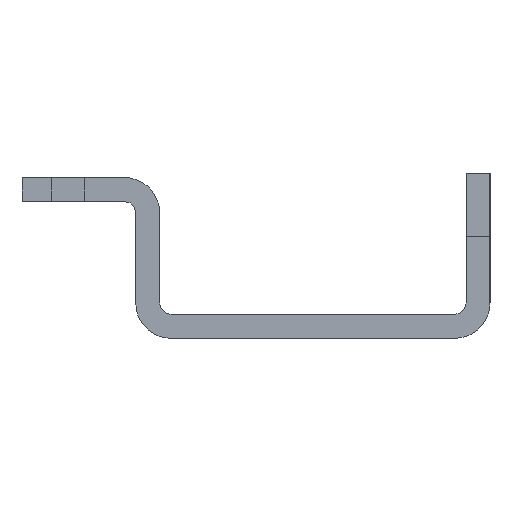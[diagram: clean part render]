
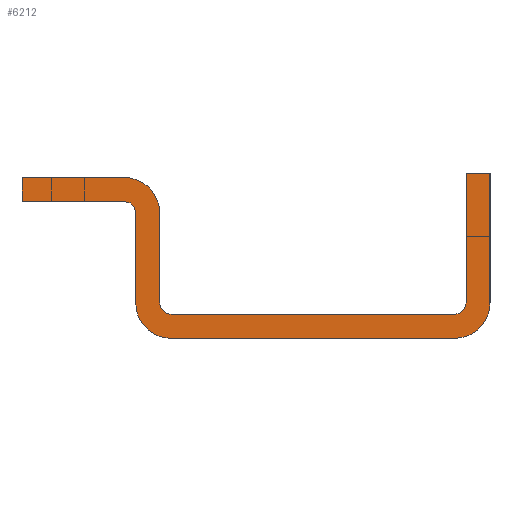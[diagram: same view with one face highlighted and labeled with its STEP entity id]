
A CAD part, left-side view. The second image highlights one B-rep face of the part: STEP entity #6212.
In plain terms, the highlighted planar face has unit normal (-1, 0, 0).
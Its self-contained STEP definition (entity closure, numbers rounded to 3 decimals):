
#24=PLANE('',#6843);
#334=CIRCLE('',#6844,4.699);
#335=CIRCLE('',#6845,1.524);
#336=CIRCLE('',#6846,4.699);
#337=CIRCLE('',#6847,4.699);
#338=CIRCLE('',#6848,1.524);
#339=CIRCLE('',#6849,1.524);
#962=ORIENTED_EDGE('',*,*,#2326,.T.);
#963=ORIENTED_EDGE('',*,*,#2327,.T.);
#964=ORIENTED_EDGE('',*,*,#2102,.F.);
#965=ORIENTED_EDGE('',*,*,#2328,.T.);
#966=ORIENTED_EDGE('',*,*,#2251,.T.);
#967=ORIENTED_EDGE('',*,*,#2329,.F.);
#968=ORIENTED_EDGE('',*,*,#2330,.F.);
#969=ORIENTED_EDGE('',*,*,#2331,.T.);
#970=ORIENTED_EDGE('',*,*,#2332,.T.);
#971=ORIENTED_EDGE('',*,*,#2333,.T.);
#972=ORIENTED_EDGE('',*,*,#2334,.F.);
#973=ORIENTED_EDGE('',*,*,#2335,.T.);
#974=ORIENTED_EDGE('',*,*,#2336,.T.);
#975=ORIENTED_EDGE('',*,*,#2337,.F.);
#976=ORIENTED_EDGE('',*,*,#2338,.F.);
#977=ORIENTED_EDGE('',*,*,#2339,.F.);
#2102=EDGE_CURVE('',#2782,#2783,#3358,.T.);
#2251=EDGE_CURVE('',#2932,#2930,#3363,.T.);
#2326=EDGE_CURVE('',#3006,#3007,#3366,.T.);
#2327=EDGE_CURVE('',#3007,#2783,#334,.T.);
#2328=EDGE_CURVE('',#2782,#2932,#3367,.T.);
#2329=EDGE_CURVE('',#3008,#2930,#335,.T.);
#2330=EDGE_CURVE('',#3009,#3008,#3368,.T.);
#2331=EDGE_CURVE('',#3009,#3010,#336,.T.);
#2332=EDGE_CURVE('',#3010,#3011,#3369,.T.);
#2333=EDGE_CURVE('',#3011,#3012,#337,.T.);
#2334=EDGE_CURVE('',#3013,#3012,#3370,.T.);
#2335=EDGE_CURVE('',#3013,#3014,#3371,.T.);
#2336=EDGE_CURVE('',#3014,#3015,#3372,.T.);
#2337=EDGE_CURVE('',#3016,#3015,#338,.T.);
#2338=EDGE_CURVE('',#3017,#3016,#3373,.T.);
#2339=EDGE_CURVE('',#3006,#3017,#339,.F.);
#2782=VERTEX_POINT('',#9596);
#2783=VERTEX_POINT('',#9597);
#2930=VERTEX_POINT('',#9893);
#2932=VERTEX_POINT('',#9896);
#3006=VERTEX_POINT('',#10046);
#3007=VERTEX_POINT('',#10047);
#3008=VERTEX_POINT('',#10051);
#3009=VERTEX_POINT('',#10053);
#3010=VERTEX_POINT('',#10055);
#3011=VERTEX_POINT('',#10057);
#3012=VERTEX_POINT('',#10059);
#3013=VERTEX_POINT('',#10061);
#3014=VERTEX_POINT('',#10063);
#3015=VERTEX_POINT('',#10065);
#3016=VERTEX_POINT('',#10067);
#3017=VERTEX_POINT('',#10069);
#3358=LINE('',#9595,#3434);
#3363=LINE('',#9895,#3439);
#3366=LINE('',#10045,#3442);
#3367=LINE('',#10049,#3443);
#3368=LINE('',#10052,#3444);
#3369=LINE('',#10056,#3445);
#3370=LINE('',#10060,#3446);
#3371=LINE('',#10062,#3447);
#3372=LINE('',#10064,#3448);
#3373=LINE('',#10068,#3449);
#3434=VECTOR('',#7651,1000.);
#3439=VECTOR('',#7946,1000.);
#3442=VECTOR('',#8095,1000.);
#3443=VECTOR('',#8098,1000.);
#3444=VECTOR('',#8101,1000.);
#3445=VECTOR('',#8104,1000.);
#3446=VECTOR('',#8107,1000.);
#3447=VECTOR('',#8108,1000.);
#3448=VECTOR('',#8109,1000.);
#3449=VECTOR('',#8112,1000.);
#3796=EDGE_LOOP('',(#962,#963,#964,#965,#966,#967,#968,#969,#970,#971,#972,
#973,#974,#975,#976,#977));
#4996=FACE_BOUND('',#3796,.T.);
#6212=ADVANCED_FACE('',(#4996),#24,.F.);
#6843=AXIS2_PLACEMENT_3D('',#10044,#8093,#8094);
#6844=AXIS2_PLACEMENT_3D('',#10048,#8096,#8097);
#6845=AXIS2_PLACEMENT_3D('',#10050,#8099,#8100);
#6846=AXIS2_PLACEMENT_3D('',#10054,#8102,#8103);
#6847=AXIS2_PLACEMENT_3D('',#10058,#8105,#8106);
#6848=AXIS2_PLACEMENT_3D('',#10066,#8110,#8111);
#6849=AXIS2_PLACEMENT_3D('',#10070,#8113,#8114);
#7651=DIRECTION('',(0.,-1.,0.));
#7946=DIRECTION('',(0.,-1.,0.));
#8093=DIRECTION('',(1.,0.,0.));
#8094=DIRECTION('',(0.,0.,-1.));
#8095=DIRECTION('',(0.,0.,1.));
#8096=DIRECTION('',(-1.,0.,0.));
#8097=DIRECTION('',(0.,1.,0.));
#8098=DIRECTION('',(0.,0.,-1.));
#8099=DIRECTION('',(-1.,0.,0.));
#8100=DIRECTION('',(0.,0.,1.));
#8101=DIRECTION('',(0.,0.,1.));
#8102=DIRECTION('',(-1.,0.,0.));
#8103=DIRECTION('',(0.,0.,1.));
#8104=DIRECTION('',(0.,-1.,0.));
#8105=DIRECTION('',(-1.,0.,0.));
#8106=DIRECTION('',(0.,0.,1.));
#8107=DIRECTION('',(0.,0.,-1.));
#8108=DIRECTION('',(0.,1.,0.));
#8109=DIRECTION('',(0.,0.,-1.));
#8110=DIRECTION('',(-1.,0.,0.));
#8111=DIRECTION('',(0.,-1.,0.));
#8112=DIRECTION('',(0.,-1.,0.));
#8113=DIRECTION('',(1.,0.,0.));
#8114=DIRECTION('',(0.,1.,0.));
#9595=CARTESIAN_POINT('',(-1066.8,23.164,21.361));
#9596=CARTESIAN_POINT('',(-1066.8,38.646,21.361));
#9597=CARTESIAN_POINT('',(-1066.8,25.057,21.361));
#9893=CARTESIAN_POINT('',(-1066.8,25.057,18.186));
#9895=CARTESIAN_POINT('',(-1066.8,23.164,18.186));
#9896=CARTESIAN_POINT('',(-1066.8,38.646,18.186));
#10044=CARTESIAN_POINT('',(-1066.8,23.533,3.175));
#10045=CARTESIAN_POINT('',(-1066.8,20.358,2.806));
#10046=CARTESIAN_POINT('',(-1066.8,20.358,4.699));
#10047=CARTESIAN_POINT('',(-1066.8,20.358,16.662));
#10048=CARTESIAN_POINT('',(-1066.8,25.057,16.662));
#10049=CARTESIAN_POINT('',(-1066.8,38.646,21.361));
#10050=CARTESIAN_POINT('',(-1066.8,25.057,16.662));
#10051=CARTESIAN_POINT('',(-1066.8,23.533,16.662));
#10052=CARTESIAN_POINT('',(-1066.8,23.533,2.806));
#10053=CARTESIAN_POINT('',(-1066.8,23.533,4.699));
#10054=CARTESIAN_POINT('',(-1066.8,18.834,4.699));
#10055=CARTESIAN_POINT('',(-1066.8,18.834,0.));
#10056=CARTESIAN_POINT('',(-1066.8,23.533,0.));
#10057=CARTESIAN_POINT('',(-1066.8,-18.834,0.));
#10058=CARTESIAN_POINT('',(-1066.8,-18.834,4.699));
#10059=CARTESIAN_POINT('',(-1066.8,-23.533,4.699));
#10060=CARTESIAN_POINT('',(-1066.8,-23.533,2.806));
#10061=CARTESIAN_POINT('',(-1066.8,-23.533,21.869));
#10062=CARTESIAN_POINT('',(-1066.8,-23.533,21.869));
#10063=CARTESIAN_POINT('',(-1066.8,-20.358,21.869));
#10064=CARTESIAN_POINT('',(-1066.8,-20.358,2.806));
#10065=CARTESIAN_POINT('',(-1066.8,-20.358,4.699));
#10066=CARTESIAN_POINT('',(-1066.8,-18.834,4.699));
#10067=CARTESIAN_POINT('',(-1066.8,-18.834,3.175));
#10068=CARTESIAN_POINT('',(-1066.8,23.533,3.175));
#10069=CARTESIAN_POINT('',(-1066.8,18.834,3.175));
#10070=CARTESIAN_POINT('',(-1066.8,18.834,4.699));
